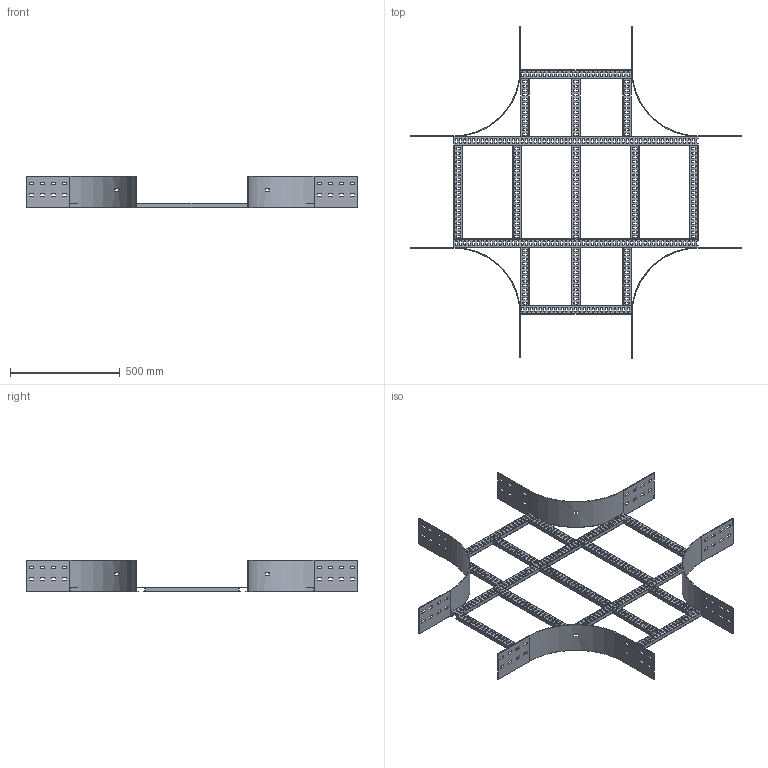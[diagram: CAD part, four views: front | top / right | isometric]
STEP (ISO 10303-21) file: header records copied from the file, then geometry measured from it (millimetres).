
FILE_DESCRIPTION(/* description */ ('','CAx-IF Rec.Pracs.---Representation and Presentation of Product Manufacturing Information (PMI)---4.0---2014-10-13'),/* implementation_level */ '2;1');
FILE_NAME(/* name */ 'Eurostrut_ECO150-500-300_Crossover for Cable Ladder ECL.step',/* time_stamp */ '2026-09-03T13:35:36+02:00',/* author */ (''),/* organization */ (''),/* preprocessor_version */ 'ST-DEVELOPER v20.1',/* originating_system */ 'Autodesk Revit 2027 27.2.0.39',/* authorisation */ '');
FILE_SCHEMA (('AP242_MANAGED_MODEL_BASED_3D_ENGINEERING_MIM_LF { 1 0 10303 442 2 1 4 }'));
Length unit declared in the file: millimetre
Products named in the file (10): TopLevelAssembly; Sweep; Sweep_1; Sweep_2; Sweep_3; Eurostrut_Cable Ladder_Rung_With slots; Eurostrut_Cable Ladder_Rung_With slots_1; Eurostrut_Cable Ladder_Rung Array Straight_Slotted; Eurostrut_Cable Ladder_Rung Array Straight_Slotted_1; Eurostrut_Cable Ladder_Accessory End_54-94-142
Assembly tree (19 placements, depth 2):
  TopLevelAssembly
    Sweep
    Sweep_1
    Eurostrut_Cable Ladder_Rung_With slots  x2
    Eurostrut_Cable Ladder_Rung_With slots_1  x2
    Sweep_2
    Sweep_3
    Eurostrut_Cable Ladder_Rung Array Straight_Slotted
    Eurostrut_Cable Ladder_Rung Array Straight_Slotted_1  x2
    Eurostrut_Cable Ladder_Accessory End_54-94-142  x8
Bounding box: 1511 x 1511 x 142 mm (x, y, z)
Volume: 2289610.2 mm3; surface area: 2190803.8 mm2
Topology: 27 solids, 27 shells, 1994 faces, 5820 edges, 3880 vertices
Faces by surface type: plane 1236, bspline 690, cylinder 68
Entity records: 52302 total; most frequent: CARTESIAN_POINT 20713, ORIENTED_EDGE 6768, DIRECTION 5870, EDGE_CURVE 3384, LINE 2372, VECTOR 2372, VERTEX_POINT 2256, AXIS2_PLACEMENT_3D 1749
